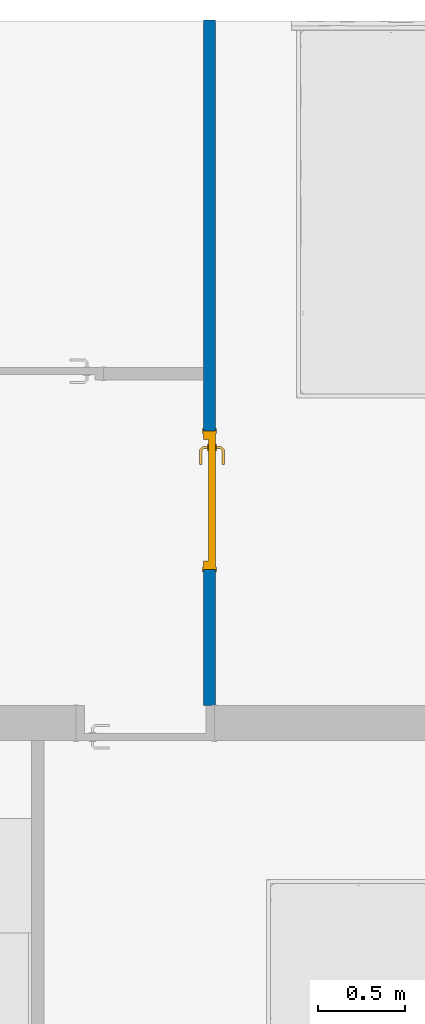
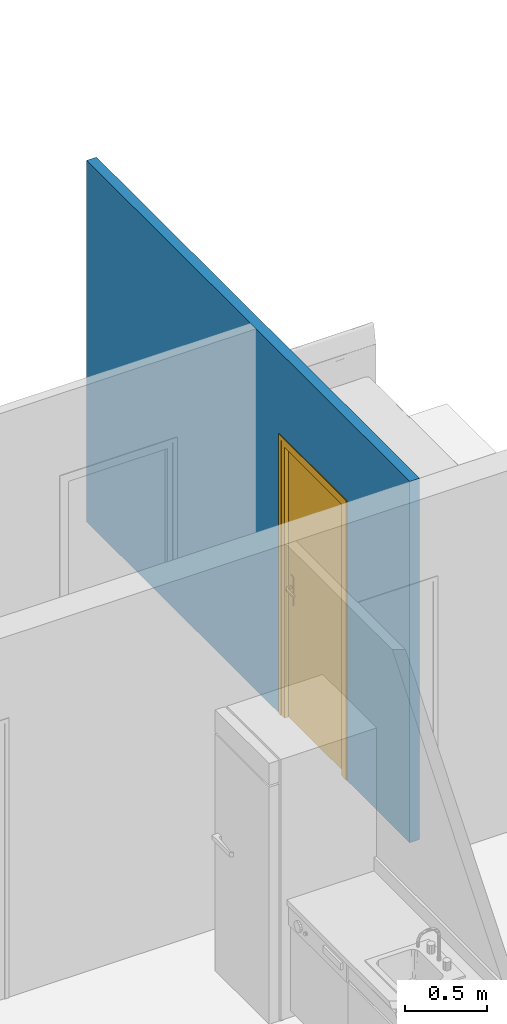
# One storey, part 5 of 15: 1 door, 1 wall, 1 opening.
"""IFC2X3 building model written with IfcOpenShell, lengths in metres."""

from ifc_helpers import new_model, entity, si_unit, converted_unit, derived_unit, direction, frame, frame_2d, origin, place, context, subcontext, project, spatial, polyline, rectangle, extrude, clip, bounded_halfspace, faceted_brep, source, transform, mapped, material, material_list, layer, layer_set, layer_usage, type_object, type_shapes, element, fill, save


model = new_model("IFC2X3")

# Units and contexts
model_context = context("Model", 3, precision=1e-05, world=origin(), true_north=direction((6.12303176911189e-17, 1.0)))
body_context = subcontext(model_context, "Body", "Model", "MODEL_VIEW")
ifc_project = project(units=[si_unit("LENGTHUNIT", "METRE"), si_unit("AREAUNIT", "SQUARE_METRE"), si_unit("VOLUMEUNIT", "CUBIC_METRE"), converted_unit("PLANEANGLEUNIT", "DEGREE", entity("IfcRatioMeasure", 0.0174532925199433), si_unit("PLANEANGLEUNIT", "RADIAN"), dimensions=[0, 0, 0, 0, 0, 0, 0]), si_unit("MASSUNIT", "GRAM", prefix="KILO"), derived_unit("MASSDENSITYUNIT", [(si_unit("MASSUNIT", "GRAM", prefix="KILO"), 1), (si_unit("LENGTHUNIT", "METRE"), -3)]), derived_unit("MOMENTOFINERTIAUNIT", [(si_unit("LENGTHUNIT", "METRE"), 4)]), si_unit("TIMEUNIT", "SECOND"), si_unit("FREQUENCYUNIT", "HERTZ"), si_unit("THERMODYNAMICTEMPERATUREUNIT", "DEGREE_CELSIUS"), derived_unit("THERMALTRANSMITTANCEUNIT", [(si_unit("MASSUNIT", "GRAM", prefix="KILO"), 1), (si_unit("THERMODYNAMICTEMPERATUREUNIT", "KELVIN"), -1), (si_unit("TIMEUNIT", "SECOND"), -3)]), derived_unit("VOLUMETRICFLOWRATEUNIT", [(si_unit("LENGTHUNIT", "METRE"), 3), (si_unit("TIMEUNIT", "SECOND"), -1)]), si_unit("ELECTRICCURRENTUNIT", "AMPERE"), si_unit("ELECTRICVOLTAGEUNIT", "VOLT"), si_unit("POWERUNIT", "WATT"), si_unit("FORCEUNIT", "NEWTON", prefix="KILO"), si_unit("ILLUMINANCEUNIT", "LUX"), si_unit("LUMINOUSFLUXUNIT", "LUMEN"), si_unit("LUMINOUSINTENSITYUNIT", "CANDELA"), derived_unit("USERDEFINED", [(si_unit("MASSUNIT", "GRAM", prefix="KILO"), -1), (si_unit("LENGTHUNIT", "METRE"), -2), (si_unit("TIMEUNIT", "SECOND"), 3), (si_unit("LUMINOUSFLUXUNIT", "LUMEN"), 1)]), derived_unit("LINEARVELOCITYUNIT", [(si_unit("LENGTHUNIT", "METRE"), 1), (si_unit("TIMEUNIT", "SECOND"), -1)]), si_unit("PRESSUREUNIT", "PASCAL"), derived_unit("USERDEFINED", [(si_unit("LENGTHUNIT", "METRE"), -2), (si_unit("MASSUNIT", "GRAM", prefix="KILO"), 1), (si_unit("TIMEUNIT", "SECOND"), -2)]), derived_unit("LINEARFORCEUNIT", [(si_unit("MASSUNIT", "GRAM", prefix="KILO"), 1), (si_unit("LENGTHUNIT", "METRE"), 1), (si_unit("TIMEUNIT", "SECOND"), -2), (si_unit("LENGTHUNIT", "METRE"), -1)]), derived_unit("PLANARFORCEUNIT", [(si_unit("MASSUNIT", "GRAM", prefix="KILO"), 1), (si_unit("LENGTHUNIT", "METRE"), 1), (si_unit("TIMEUNIT", "SECOND"), -2), (si_unit("LENGTHUNIT", "METRE"), -2)])], contexts=[model_context])

# Site, building, storey
site_placement = place(None, origin())
site = spatial("IfcSite", under=ifc_project, at=site_placement, Name="Surface", CompositionType="ELEMENT")
building_placement = place(site_placement, origin())
building = spatial("IfcBuilding", under=site, at=building_placement, CompositionType="ELEMENT")
storey_placement = place(building_placement, frame((0.0, 0.0, 2.65)))
storey = spatial("IfcBuildingStorey", under=building, at=storey_placement, Name="Niveau étage", CompositionType="ELEMENT", Elevation=2.65)

# Wall, opening, door
ifc_material_1 = material(Name="Mur par défaut")
ifc_layer = layer(ifc_material_1, 0.07)
ifc_layer_set = layer_set([ifc_layer], Name="Mur de base:Int. Plâtre 7cm")
ifc_layer_usage = layer_usage(ifc_layer_set, "AXIS2", "NEGATIVE", 0.035)
wall_type = type_object("IfcWallType", Name="Mur de base:Int. Plâtre 7cm", PredefinedType="STANDARD", material=ifc_layer_set)
wall_placement = place(storey_placement, frame((9.93439607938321, 7.00925810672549, 0.0), z_axis=(0.0, 0.0, 1.0), x_axis=(0.0, -1.0, 0.0)))
wall = element("IfcWallStandardCase", 1, at=wall_placement, inside=storey, type_object=wall_type, material=ifc_layer_usage, Name="Mur de base:Int. Plâtre 7cm", ObjectType="Mur de base:Int. Plâtre 7cm", context=body_context, shape_type="Clipping", body=[
    clip(extrude(rectangle(XDim=3.955, YDim=0.0700000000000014, at=frame_2d((1.9775, -5.10008701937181e-16), x_axis=(-1.0, 0.0))), origin(), (0.0, 0.0, 1.0), 2.7), bounded_halfspace(frame((0.0, -0.0349999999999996, 2.7), z_axis=(0.0, 0.0, -1.0), x_axis=(0.0, -1.0, 0.0)), True, frame((0.0, -0.0349999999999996, 2.7)), polyline([(0.0, 0.0), (2.005, 0.0), (2.075, 0.0), (3.955, 0.0), (3.955, 0.0699999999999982), (0.0, 0.0699999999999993), (0.0, 0.0)]))),
])
opening_placement = place(wall_placement, frame((2.37, -0.0349999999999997, 0.0)))
opening = element("IfcOpeningElement", 2, at=opening_placement, cuts=wall, Name="Int. Simple:PP (0.73m x 2.04m):1", ObjectType="Opening", context=body_context, shape_type="SweptSolid", body=[
    extrude(rectangle(XDim=2.075, YDim=0.799999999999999, at=frame_2d((1.0375, 0.4), x_axis=(1.0, 0.0))), frame((0.0, 0.0, 0.0), z_axis=(0.0, 1.0, 0.0), x_axis=(0.0, 0.0, 1.0)), (0.0, 0.0, 1.0), 0.07),
])
ifc_material_2 = material(Name="Finition Peinture - Blanc satiné")
ifc_material_3 = material(Name="Bois - Panneau de porte")
ifc_material_4 = material(Name="Bois - Cadre de porte")
ifc_material_list_1 = material_list([ifc_material_2, ifc_material_3, ifc_material_4])
ifc_material_list_2 = material_list([ifc_material_2, ifc_material_3, ifc_material_4])
door_style = type_object("IfcDoorStyle", Name="Int. Simple:PP (0.73m x 2.04m)", ConstructionType="NOTDEFINED", OperationType="NOTDEFINED", ParameterTakesPrecedence=False, Sizeable=False, material=ifc_material_list_2)
shared_shape = source(origin(), body_context, "Body", "Brep", [
    faceted_brep([(0.795000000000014, -0.00500000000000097, 0.870000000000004), (0.795000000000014, -0.00500000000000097, 1.08), (0.785352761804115, -0.00500000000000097, 1.08399601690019), (0.775000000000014, -0.00500000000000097, 1.08535898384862), (0.764647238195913, -0.00500000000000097, 1.08399601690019), (0.755000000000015, -0.00500000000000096, 1.08), (0.755000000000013, -0.00500000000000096, 0.870000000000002), (0.764647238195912, -0.00500000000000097, 0.866003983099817), (0.775000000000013, -0.00500000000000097, 0.86464101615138), (0.785352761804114, -0.00500000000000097, 0.866003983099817), (0.795000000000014, 0.0, 1.08), (0.795000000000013, 0.0, 0.870000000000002), (0.785352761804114, 0.0, 0.866003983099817), (0.775000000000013, 0.0, 0.86464101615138), (0.764647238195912, 0.0, 0.866003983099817), (0.755000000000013, 0.0, 0.870000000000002), (0.755000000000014, 0.0, 1.08), (0.764647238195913, 0.0, 1.08399601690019), (0.775000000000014, 0.0, 1.08535898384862), (0.785352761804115, 0.0, 1.08399601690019)], [[[0, 1, 2, 3, 4, 5, 6, 7, 8, 9]], [[10, 11, 12, 13, 14, 15, 16, 17, 18, 19]], [[9, 12, 11, 0]], [[8, 13, 12, 9]], [[7, 14, 13, 8]], [[7, 6, 15, 14]], [[15, 6, 5, 16]], [[4, 17, 16, 5]], [[3, 18, 17, 4]], [[2, 19, 18, 3]], [[2, 1, 10, 19]], [[11, 10, 1, 0]]]),
    faceted_brep([(0.795000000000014, 0.039999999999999, 0.870000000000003), (0.795000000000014, 0.039999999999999, 1.08), (0.785352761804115, 0.039999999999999, 1.08399601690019), (0.775000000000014, 0.039999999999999, 1.08535898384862), (0.764647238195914, 0.039999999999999, 1.08399601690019), (0.755000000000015, 0.039999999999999, 1.08), (0.755000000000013, 0.039999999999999, 0.870000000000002), (0.764647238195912, 0.039999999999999, 0.866003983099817), (0.775000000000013, 0.039999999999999, 0.86464101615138), (0.785352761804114, 0.039999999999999, 0.866003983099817), (0.775000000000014, 0.044999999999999, 1.08535898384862), (0.785352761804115, 0.044999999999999, 1.08399601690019), (0.795000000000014, 0.044999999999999, 1.08), (0.795000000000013, 0.044999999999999, 0.870000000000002), (0.785352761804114, 0.044999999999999, 0.866003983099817), (0.775000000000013, 0.044999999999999, 0.86464101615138), (0.764647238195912, 0.044999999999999, 0.866003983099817), (0.755000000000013, 0.044999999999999, 0.870000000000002), (0.755000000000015, 0.044999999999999, 1.08), (0.764647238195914, 0.044999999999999, 1.08399601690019)], [[[0, 1, 2, 3, 4, 5, 6, 7, 8, 9]], [[10, 11, 12, 13, 14, 15, 16, 17, 18, 19]], [[4, 19, 18, 5]], [[3, 10, 19, 4]], [[2, 11, 10, 3]], [[2, 1, 12, 11]], [[13, 12, 1, 0]], [[9, 14, 13, 0]], [[8, 15, 14, 9]], [[7, 16, 15, 8]], [[7, 6, 17, 16]], [[17, 6, 5, 18]]]),
    faceted_brep([(0.772974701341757, -0.00500000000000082, 1.00778044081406), (0.777025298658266, -0.00500000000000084, 1.00778044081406), (0.781000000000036, -0.00500000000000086, 1.00699999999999), (0.781000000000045, -0.00500000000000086, 0.992999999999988), (0.777025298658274, -0.00500000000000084, 0.99221955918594), (0.772974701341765, -0.00500000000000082, 0.992219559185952), (0.768999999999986, -0.00500000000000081, 0.993000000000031), (0.768999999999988, -0.00500000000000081, 1.007), (0.777025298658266, -0.0310045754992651, 1.00778044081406), (0.781000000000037, -0.0326509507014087, 1.007), (0.772974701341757, -0.0293267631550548, 1.00778044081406), (0.759298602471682, -0.0430028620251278, 1.00778044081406), (0.760976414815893, -0.047053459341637, 1.00778044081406), (0.768999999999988, -0.0276803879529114, 1.007), (0.768999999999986, -0.0276803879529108, 0.993000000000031), (0.772974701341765, -0.0293267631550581, 0.992219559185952), (0.777025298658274, -0.0310045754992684, 0.99221955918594), (0.760976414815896, -0.0470534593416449, 0.99221955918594), (0.759298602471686, -0.0430028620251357, 0.992219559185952), (0.781000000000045, -0.0326509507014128, 0.992999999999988), (0.762622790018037, -0.051028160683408, 1.007), (0.757652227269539, -0.0390281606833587, 1.007), (0.757652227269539, -0.0390281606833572, 0.993000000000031), (0.76262279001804, -0.0510281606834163, 0.992999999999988), (0.674981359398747, -0.0510281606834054, 1.007), (0.674981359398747, -0.0470534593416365, 1.00778044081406), (0.674981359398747, -0.0430028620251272, 1.00778044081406), (0.674981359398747, -0.0390281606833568, 1.00699999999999), (0.674981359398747, -0.0390281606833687, 0.993000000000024), (0.674981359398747, -0.0430028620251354, 0.992219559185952), (0.674981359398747, -0.0470534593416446, 0.99221955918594), (0.674981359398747, -0.0510281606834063, 0.992999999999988), (0.71713998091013, -0.0450281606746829, 1.0078786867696), (0.722692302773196, -0.0510281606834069, 1.007), (0.716316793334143, -0.0390281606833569, 1.007), (0.716316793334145, -0.0390281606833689, 0.993000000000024), (0.717139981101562, -0.0450281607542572, 0.992121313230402), (0.722692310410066, -0.0510281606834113, 0.992999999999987)], [[[0, 1, 2, 3, 4, 5, 6, 7]], [[2, 1, 8, 9]], [[1, 0, 10, 11, 12, 8]], [[0, 7, 13, 10]], [[14, 13, 7, 6]], [[5, 15, 14, 6]], [[5, 4, 16, 17, 18, 15]], [[3, 19, 16, 4]], [[9, 19, 3, 2]], [[9, 8, 12, 20]], [[10, 13, 21, 11]], [[22, 21, 13, 14]], [[14, 15, 18, 22]], [[16, 19, 23, 17]], [[20, 23, 19, 9]], [[24, 25, 26, 27, 28, 29, 30, 31]], [[32, 25, 33]], [[33, 25, 24]], [[33, 20, 12]], [[11, 34, 32]], [[34, 11, 21]], [[27, 26, 34]], [[32, 26, 25]], [[32, 34, 26]], [[32, 33, 12]], [[11, 32, 12]], [[21, 22, 35, 28, 27, 34]], [[36, 29, 35]], [[30, 36, 37]], [[18, 35, 22]], [[29, 28, 35]], [[30, 37, 31]], [[37, 17, 23]], [[36, 17, 37]], [[36, 18, 17]], [[36, 35, 18]], [[29, 36, 30]], [[23, 20, 33, 24, 31, 37]]]),
    faceted_brep([(0.772974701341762, 0.0449999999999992, 0.992219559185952), (0.777025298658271, 0.0449999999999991, 0.99221955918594), (0.781000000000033, 0.0449999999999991, 0.992999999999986), (0.781000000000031, 0.0449999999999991, 1.007), (0.777025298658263, 0.0449999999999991, 1.00778044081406), (0.772974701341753, 0.0449999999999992, 1.00778044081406), (0.768999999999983, 0.0449999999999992, 1.007), (0.768999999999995, 0.0449999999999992, 0.993000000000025), (0.768999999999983, 0.0674852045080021, 1.007), (0.768999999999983, 0.0674852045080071, 0.993000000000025), (0.772974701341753, 0.0691315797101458, 1.00778044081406), (0.777025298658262, 0.0708093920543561, 1.00778044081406), (0.760838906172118, 0.0869957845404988, 1.00778044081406), (0.759161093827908, 0.0829451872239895, 1.00778044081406), (0.781000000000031, 0.0724557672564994, 1.007), (0.781000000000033, 0.0724557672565, 0.992999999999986), (0.777025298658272, 0.0708093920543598, 0.99221955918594), (0.772974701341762, 0.0691315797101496, 0.992219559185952), (0.759161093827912, 0.0829451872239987, 0.992219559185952), (0.760838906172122, 0.0869957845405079, 0.99221955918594), (0.757514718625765, 0.0789704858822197, 1.007), (0.757514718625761, 0.0789704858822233, 0.993000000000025), (0.762485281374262, 0.0909704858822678, 1.007), (0.762485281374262, 0.0909704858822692, 0.992999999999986), (0.674954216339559, 0.0829451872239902, 1.00778044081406), (0.674954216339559, 0.0869957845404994, 1.00778044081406), (0.674954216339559, 0.0909704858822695, 1.007), (0.674954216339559, 0.0909704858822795, 0.992999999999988), (0.674954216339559, 0.0869957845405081, 0.99221955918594), (0.674954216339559, 0.0829451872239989, 0.992219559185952), (0.674954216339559, 0.07897048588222, 0.993000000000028), (0.674954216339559, 0.0789704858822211, 1.007), (0.716234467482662, 0.0789704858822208, 1.007), (0.716234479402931, 0.0789704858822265, 0.993000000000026), (0.717057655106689, 0.0849704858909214, 1.0078786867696), (0.722554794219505, 0.0909704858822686, 1.007), (0.722554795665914, 0.0909704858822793, 0.992999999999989), (0.717057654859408, 0.0849704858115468, 0.992121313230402)], [[[0, 1, 2, 3, 4, 5, 6, 7]], [[8, 9, 7, 6]], [[5, 10, 8, 6]], [[5, 4, 11, 12, 13, 10]], [[3, 14, 11, 4]], [[14, 3, 2, 15]], [[2, 1, 16, 15]], [[1, 0, 17, 18, 19, 16]], [[0, 7, 9, 17]], [[20, 21, 9, 8]], [[8, 10, 13, 20]], [[14, 22, 12, 11]], [[23, 22, 14, 15]], [[15, 16, 19, 23]], [[17, 9, 21, 18]], [[24, 25, 26, 27, 28, 29, 30, 31]], [[21, 20, 32, 31, 30, 33]], [[34, 24, 32]], [[25, 34, 35]], [[13, 32, 20]], [[24, 31, 32]], [[25, 35, 26]], [[35, 12, 22]], [[34, 12, 35]], [[34, 13, 12]], [[34, 32, 13]], [[24, 34, 25]], [[22, 23, 36, 27, 26, 35]], [[37, 28, 36]], [[36, 28, 27]], [[36, 23, 19]], [[18, 33, 37]], [[33, 18, 21]], [[30, 29, 33]], [[37, 29, 28]], [[37, 33, 29]], [[37, 36, 19]], [[18, 37, 19]]]),
    faceted_brep([(0.835000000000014, 0.0400000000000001, 2.04), (0.835000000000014, 0.0400000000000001, 0.0), (0.105000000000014, 0.0400000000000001, 0.0), (0.105000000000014, 0.0400000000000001, 2.04), (0.835000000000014, 0.0, 2.04), (0.105000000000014, 0.0, 2.04), (0.105000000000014, 0.0, 0.0), (0.835000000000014, 0.0, 0.0)], [[[0, 1, 2, 3]], [[4, 5, 6, 7]], [[3, 5, 4, 0]], [[2, 6, 5, 3]], [[1, 7, 6, 2]], [[0, 4, 7, 1]]]),
    faceted_brep([(0.870000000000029, 0.0, 0.0), (0.835000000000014, 0.0, 0.0), (0.835000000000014, 0.04, 0.0), (0.820000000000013, 0.04, 0.0), (0.820000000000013, 0.0699999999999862, 0.0), (0.870000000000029, 0.0699999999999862, 0.0), (0.870000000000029, 0.0699999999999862, 2.07500000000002), (0.870000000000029, 0.0, 2.07500000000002), (0.820000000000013, 0.0699999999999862, 2.025), (0.120000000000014, 0.0699999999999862, 2.025), (0.120000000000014, 0.0699999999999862, 0.0), (0.0699999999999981, 0.0699999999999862, 0.0), (0.0699999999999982, 0.0699999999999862, 2.07500000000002), (0.820000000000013, 0.04, 2.025), (0.835000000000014, 0.04, 2.04), (0.105000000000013, 0.04, 2.04), (0.105000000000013, 0.04, 0.0), (0.120000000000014, 0.04, 0.0), (0.120000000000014, 0.04, 2.025), (0.835000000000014, 0.0, 2.04), (0.0699999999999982, 0.0, 2.07500000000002), (0.0699999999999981, 0.0, 0.0), (0.105000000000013, 0.0, 0.0), (0.105000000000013, 0.0, 2.04)], [[[0, 1, 2, 3, 4, 5]], [[5, 6, 7, 0]], [[4, 8, 9, 10, 11, 12, 6, 5]], [[3, 13, 8, 4]], [[2, 14, 15, 16, 17, 18, 13, 3]], [[1, 19, 14, 2]], [[0, 7, 20, 21, 22, 23, 19, 1]], [[12, 11, 21, 20]], [[21, 11, 10, 17, 16, 22]], [[18, 17, 10, 9]], [[23, 22, 16, 15]], [[6, 12, 20, 7]], [[13, 18, 9, 8]], [[19, 23, 15, 14]]]),
    faceted_brep([(0.855000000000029, 0.0699999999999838, 0.0), (0.855000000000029, 0.0749999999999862, 0.0), (0.885000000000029, 0.0749999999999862, 0.0), (0.885000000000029, 0.0699999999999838, 0.0), (0.885000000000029, 0.0699999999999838, 2.09000000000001), (0.0550000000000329, 0.0699999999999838, 2.09000000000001), (0.055000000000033, 0.0699999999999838, 0.0), (0.0850000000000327, 0.0699999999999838, 0.0), (0.0850000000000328, 0.0699999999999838, 2.06000000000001), (0.855000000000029, 0.0699999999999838, 2.06000000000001), (0.885000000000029, 0.0749999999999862, 2.09000000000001), (0.855000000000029, 0.0749999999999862, 2.06000000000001), (0.0850000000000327, 0.0749999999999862, 2.06000000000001), (0.0850000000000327, 0.0749999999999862, 0.0), (0.055000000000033, 0.0749999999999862, 0.0), (0.0550000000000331, 0.0749999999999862, 2.09000000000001)], [[[0, 1, 2, 3]], [[3, 4, 5, 6, 7, 8, 9, 0]], [[2, 10, 4, 3]], [[1, 11, 12, 13, 14, 15, 10, 2]], [[0, 9, 11, 1]], [[7, 6, 14, 13]], [[8, 7, 13, 12]], [[15, 14, 6, 5]], [[10, 15, 5, 4]], [[9, 8, 12, 11]]]),
    faceted_brep([(0.885000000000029, -0.00499999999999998, 0.0), (0.885000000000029, -0.00499999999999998, 2.09000000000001), (0.0550000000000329, -0.00499999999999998, 2.09000000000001), (0.055000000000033, -0.00499999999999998, 0.0), (0.0850000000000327, -0.00499999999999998, 0.0), (0.0850000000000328, -0.00499999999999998, 2.06000000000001), (0.855000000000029, -0.00499999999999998, 2.06000000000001), (0.855000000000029, -0.00499999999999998, 0.0), (0.885000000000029, 0.0, 0.0), (0.885000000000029, 0.0, 2.09000000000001), (0.855000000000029, 0.0, 0.0), (0.855000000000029, 0.0, 2.06000000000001), (0.0850000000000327, 0.0, 2.06000000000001), (0.0850000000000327, 0.0, 0.0), (0.055000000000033, 0.0, 0.0), (0.0550000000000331, 0.0, 2.09000000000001)], [[[0, 1, 2, 3, 4, 5, 6, 7]], [[8, 9, 1, 0]], [[10, 11, 12, 13, 14, 15, 9, 8]], [[7, 6, 11, 10]], [[5, 4, 13, 12]], [[15, 14, 3, 2]], [[9, 15, 2, 1]], [[6, 5, 12, 11]], [[4, 3, 14, 13]], [[7, 10, 8, 0]]]),
])
type_shapes(door_style, [shared_shape])
door_placement = place(opening_placement, frame((0.870000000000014, 0.0699999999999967, 0.0), z_axis=(0.0, 0.0, 1.0), x_axis=(-1.0, 0.0, 0.0)))
door = element("IfcDoor", 3, at=door_placement, inside=storey, type_object=door_style, material=ifc_material_list_1, Name="Int. Simple:PP (0.73m x 2.04m)", ObjectType="Int. Simple:PP (0.73m x 2.04m)", OverallHeight=2.075, OverallWidth=0.799999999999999, context=body_context, shape_type="MappedRepresentation", body=[
    mapped(shared_shape, transform((0.0, 0.0, 0.0), scale=1.0)),
])
fill(opening, door)

save(model, "model.ifc")
